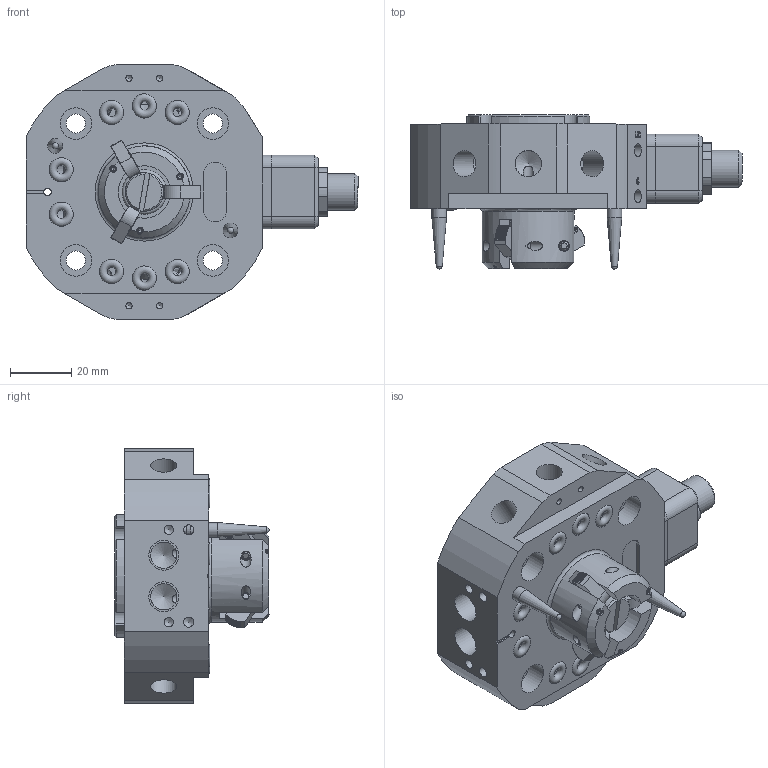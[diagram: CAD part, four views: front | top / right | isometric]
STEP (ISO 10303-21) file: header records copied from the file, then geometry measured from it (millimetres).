
FILE_DESCRIPTION (( 'STEP AP214' ), '1' );
FILE_NAME ('1606-D04A REV01.STEP', '2019-02-26T15:52:59', ( 'Any Employee' ), ( 'Applied Robotics Inc.' ), 'SwSTEP 2.0', 'SolidWorks 2019', '' );
FILE_SCHEMA (( 'AUTOMOTIVE_DESIGN' ));
Length unit declared in the file: millimetre
Products named in the file (26): 1507-C48N; 1507-C55N; 96503-B1039; 97501-P1084; 89504-P1063; 0407-P80N; 0202-P05N; 1602-P21N; 83908-P1134; 1507-C43N; 1507-C56N; 96503-C1071; 48407; 48410_48410; 48009; 90511-P1029; 1606-D04A REV01; 1507-D47N; 48162; 96503-B1040; 1507-P01N; 90507-B1028; 48008; 96504-P1020; 1507-D54A; 96504-P1018_96504-P1018
Assembly tree (51 placements, depth 3):
  1606-D04A REV01
    1507-D47N
    1507-C48N
    1507-C43N
    96503-B1040
    96503-B1039  x3
    96503-C1071  x3
    90507-B1028  x2
    89504-P1063  x2
    48410_48410  x3
    96504-P1020
    0202-P05N  x8
    90511-P1029  x2
    96504-P1018_96504-P1018
    83908-P1134
    48162  x4
    1507-D54A
      1507-C55N
      1507-C56N
      1507-P01N  x2
      97501-P1084  x2
      48407  x2
      48008  x4
      0407-P80N
      48009  x2
    1602-P21N
Bounding box: 108 x 50.14 x 83 mm (x, y, z)
Volume: 143165.3 mm3; surface area: 61875 mm2
Topology: 51 solids, 51 shells, 1600 faces, 3996 edges, 2576 vertices
Faces by surface type: plane 746, cylinder 371, cone 250, bspline 195, torus 36, sphere 2
Full cylindrical faces by diameter (mm): 1 x6, 2 x2, 2.05 x18, 2.144 x36, 2.4 x2, 2.5 x49, 2.75 x2, 2.9 x4, 3 x11, 3.014 x3, 3.018 x6, 3.05 x2, 3.054 x2, 3.063 x2, 3.075 x2, 3.3 x16, 3.5 x2, 4.2 x2, 4.255 x1, 4.342 x4, 4.5 x7, 4.79 x2, 4.8 x2, 4.976 x2, 5 x15, 5.294 x1, 5.5 x2, 5.52 x1, 5.55 x1, 6 x3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
Entity records: 42202 total; most frequent: CARTESIAN_POINT 18244, ORIENTED_EDGE 4322, DIRECTION 4221, EDGE_CURVE 2161, AXIS2_PLACEMENT_3D 1578, EDGE_LOOP 1571, VERTEX_POINT 1558, FACE_OUTER_BOUND 1272
